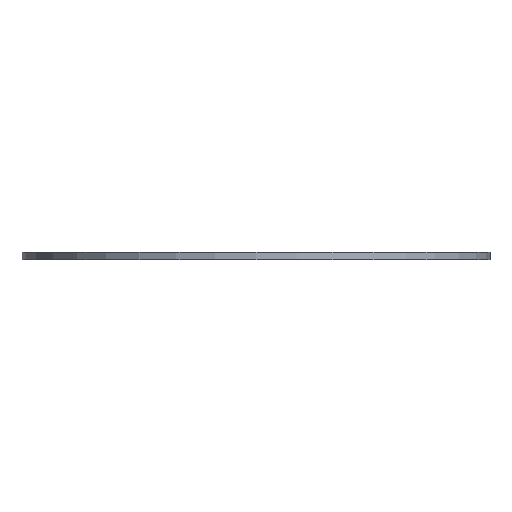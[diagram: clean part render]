
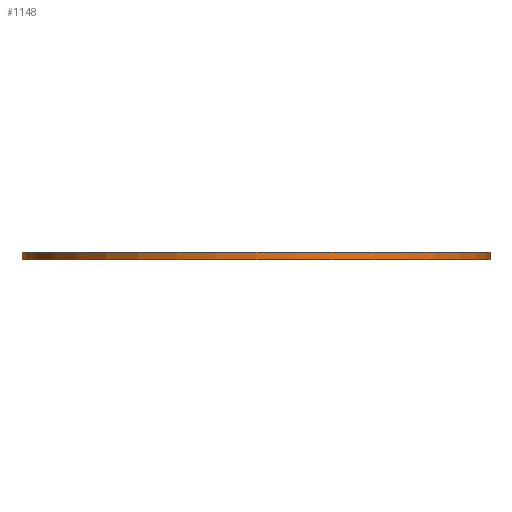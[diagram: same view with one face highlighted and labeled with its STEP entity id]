
A CAD part, front view. The second image highlights one B-rep face of the part: STEP entity #1148.
In plain terms, the highlighted cylindrical face has radius 90 mm (diameter 180 mm), a full revolution.
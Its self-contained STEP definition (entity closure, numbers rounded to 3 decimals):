
#1148=ADVANCED_FACE('',(#2769,#2770),#2771,.T.);
#2769=FACE_OUTER_BOUND('',#5342,.T.);
#2770=FACE_OUTER_BOUND('',#5343,.T.);
#2771=CYLINDRICAL_SURFACE('',#5344,90.0);
#5342=EDGE_LOOP('',(#10407));
#5343=EDGE_LOOP('',(#10408));
#5344=AXIS2_PLACEMENT_3D('',#10409,#10410,#10411);
#10407=ORIENTED_EDGE('',*,*,#19126,.T.);
#10408=ORIENTED_EDGE('',*,*,#19127,.F.);
#10409=CARTESIAN_POINT('',(543.181,536.937,0.0));
#10410=DIRECTION('',(0.0,0.0,1.0));
#10411=DIRECTION('',(1.0,0.0,-0.0));
#19126=EDGE_CURVE('',#22556,#22556,#22557,.T.);
#19127=EDGE_CURVE('',#22558,#22558,#22559,.T.);
#22556=VERTEX_POINT('',#29799);
#22557=CIRCLE('',#29800,90.0);
#22558=VERTEX_POINT('',#29801);
#22559=CIRCLE('',#29802,90.0);
#29799=CARTESIAN_POINT('',(633.181,536.937,0.0));
#29800=AXIS2_PLACEMENT_3D('',#39058,#39059,#39060);
#29801=CARTESIAN_POINT('',(633.181,536.937,3.0));
#29802=AXIS2_PLACEMENT_3D('',#39061,#39062,#39063);
#39058=CARTESIAN_POINT('',(543.181,536.937,0.0));
#39059=DIRECTION('',(0.0,0.0,1.0));
#39060=DIRECTION('',(1.0,0.0,0.0));
#39061=CARTESIAN_POINT('',(543.181,536.937,3.0));
#39062=DIRECTION('',(0.0,0.0,1.0));
#39063=DIRECTION('',(1.0,0.0,0.0));
